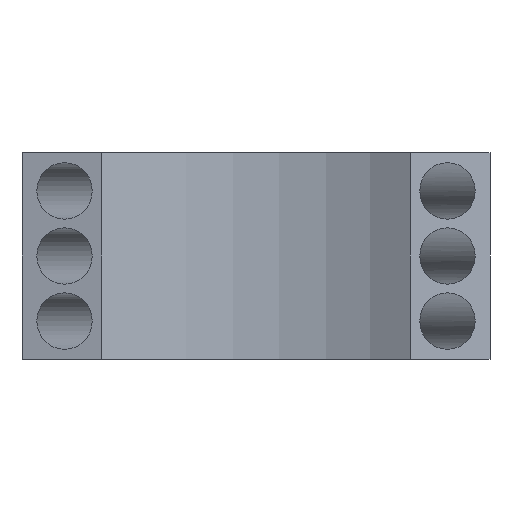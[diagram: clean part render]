
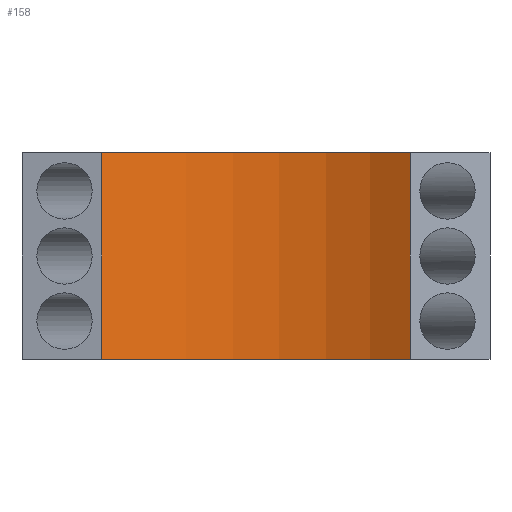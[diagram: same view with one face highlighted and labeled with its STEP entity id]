
A CAD part, front view. The second image highlights one B-rep face of the part: STEP entity #158.
In plain terms, the highlighted cylindrical face has radius 25 mm (diameter 50 mm), a partial arc.
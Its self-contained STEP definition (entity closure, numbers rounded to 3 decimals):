
#75=CYLINDRICAL_SURFACE('',#3430,25.);
#158=ADVANCED_FACE('',(#316),#75,.F.);
#316=FACE_OUTER_BOUND('',#520,.F.);
#520=EDGE_LOOP('',(#819,#820,#821,#822));
#819=ORIENTED_EDGE('',*,*,#2543,.F.);
#820=ORIENTED_EDGE('',*,*,#2559,.F.);
#821=ORIENTED_EDGE('',*,*,#2551,.F.);
#822=ORIENTED_EDGE('',*,*,#2558,.T.);
#1918=LINE('',#5125,#2174);
#1919=LINE('',#5126,#2175);
#2174=VECTOR('',#3815,19.);
#2175=VECTOR('',#3816,19.);
#2543=EDGE_CURVE('',#3091,#3092,#2892,.T.);
#2551=EDGE_CURVE('',#3084,#3083,#2894,.T.);
#2558=EDGE_CURVE('',#3084,#3092,#1918,.T.);
#2559=EDGE_CURVE('',#3083,#3091,#1919,.T.);
#2892=CIRCLE('',#3353,25.);
#2894=CIRCLE('',#3355,25.);
#3083=VERTEX_POINT('',#4582);
#3084=VERTEX_POINT('',#4583);
#3091=VERTEX_POINT('',#4590);
#3092=VERTEX_POINT('',#4591);
#3353=AXIS2_PLACEMENT_3D('',#5110,#3796,#3797);
#3355=AXIS2_PLACEMENT_3D('',#5118,#3806,#3807);
#3430=AXIS2_PLACEMENT_3D('',#5388,#4151,#4152);
#3796=DIRECTION('',(0.,0.,-1.));
#3797=DIRECTION('',(-0.569,0.822,0.));
#3806=DIRECTION('',(0.,0.,1.));
#3807=DIRECTION('',(0.569,0.822,0.));
#3815=DIRECTION('',(0.,0.,-1.));
#3816=DIRECTION('',(0.,0.,-1.));
#4151=DIRECTION('',(0.,0.,-1.));
#4152=DIRECTION('',(-0.569,0.822,0.));
#4582=CARTESIAN_POINT('',(-14.222,-89.44,74.475));
#4583=CARTESIAN_POINT('',(14.222,-89.44,74.475));
#4590=CARTESIAN_POINT('',(-14.222,-89.44,55.475));
#4591=CARTESIAN_POINT('',(14.222,-89.44,55.475));
#5110=CARTESIAN_POINT('',(0.,-110.,55.475));
#5118=CARTESIAN_POINT('',(0.,-110.,74.475));
#5125=CARTESIAN_POINT('',(14.222,-89.44,74.475));
#5126=CARTESIAN_POINT('',(-14.222,-89.44,74.475));
#5388=CARTESIAN_POINT('',(0.,-110.,74.475));
